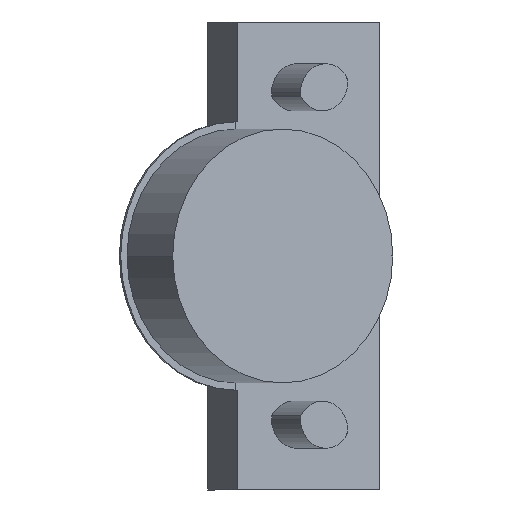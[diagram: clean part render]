
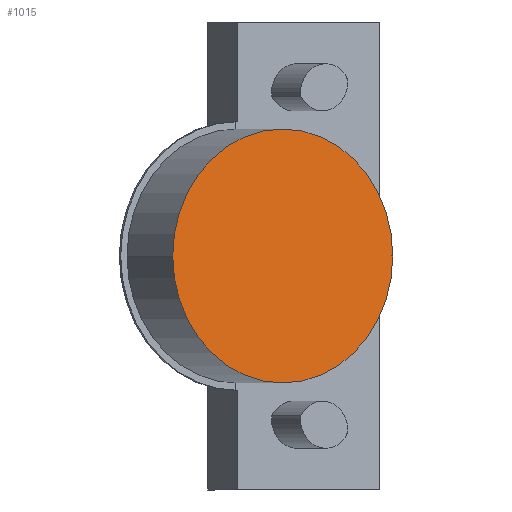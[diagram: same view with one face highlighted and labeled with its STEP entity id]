
A CAD part, front view. The second image highlights one B-rep face of the part: STEP entity #1015.
In plain terms, the highlighted planar face has unit normal (0.5, -0.866, 0).
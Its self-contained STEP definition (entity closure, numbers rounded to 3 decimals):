
#83 = DIRECTION ( 'NONE',  ( 0.866, 0.5, 0. ) ) ;
#404 = ORIENTED_EDGE ( 'NONE', *, *, #1123, .T. ) ;
#407 = VERTEX_POINT ( 'NONE', #1336 ) ;
#426 = CARTESIAN_POINT ( 'NONE',  ( 12.05, -62.902, 0. ) ) ;
#437 = DIRECTION ( 'NONE',  ( 0.866, 0.5, 0. ) ) ;
#461 = EDGE_CURVE ( 'NONE', #1395, #407, #863, .T. ) ;
#491 = FACE_OUTER_BOUND ( 'NONE', #493, .T. ) ;
#493 = EDGE_LOOP ( 'NONE', ( #912, #404 ) ) ;
#533 = AXIS2_PLACEMENT_3D ( 'NONE', #1499, #860, #1375 ) ;
#627 = CARTESIAN_POINT ( 'NONE',  ( 12.05, -62.902, 0. ) ) ;
#860 = DIRECTION ( 'NONE',  ( 0.5, -0.866, 0. ) ) ;
#863 = CIRCLE ( 'NONE', #1551, 17.5 ) ;
#912 = ORIENTED_EDGE ( 'NONE', *, *, #461, .T. ) ;
#946 = AXIS2_PLACEMENT_3D ( 'NONE', #627, #1007, #83 ) ;
#1007 = DIRECTION ( 'NONE',  ( 0.5, -0.866, 0. ) ) ;
#1015 = ADVANCED_FACE ( 'NONE', ( #491 ), #1404, .T. ) ;
#1105 = CARTESIAN_POINT ( 'NONE',  ( -3.105, -71.652, 0. ) ) ;
#1123 = EDGE_CURVE ( 'NONE', #407, #1395, #1267, .T. ) ;
#1267 = CIRCLE ( 'NONE', #533, 17.5 ) ;
#1336 = CARTESIAN_POINT ( 'NONE',  ( 27.205, -54.152, 0. ) ) ;
#1375 = DIRECTION ( 'NONE',  ( 0.866, 0.5, 0. ) ) ;
#1395 = VERTEX_POINT ( 'NONE', #1105 ) ;
#1404 = PLANE ( 'NONE',  #946 ) ;
#1499 = CARTESIAN_POINT ( 'NONE',  ( 12.05, -62.902, 0. ) ) ;
#1551 = AXIS2_PLACEMENT_3D ( 'NONE', #426, #1587, #437 ) ;
#1587 = DIRECTION ( 'NONE',  ( 0.5, -0.866, 0. ) ) ;
